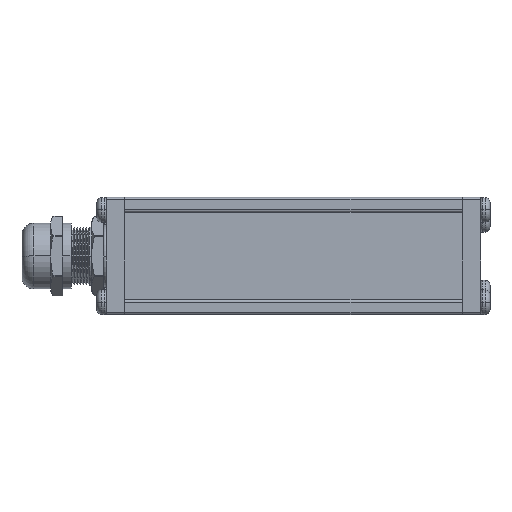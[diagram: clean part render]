
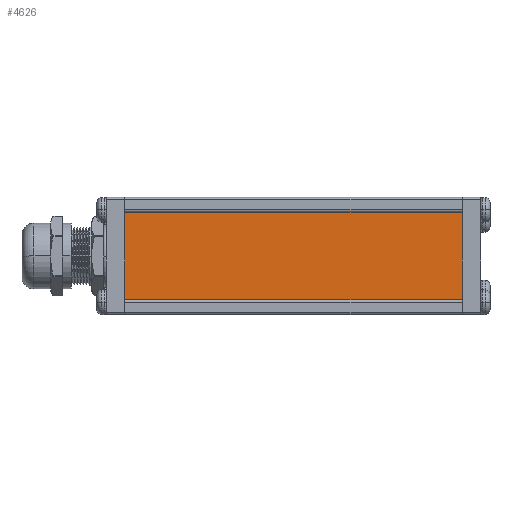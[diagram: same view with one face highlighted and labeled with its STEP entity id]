
A CAD part, top view. The second image highlights one B-rep face of the part: STEP entity #4626.
In plain terms, the highlighted planar face has unit normal (0, 0, 1) as drawn and (0, 1, 0) by its records, which use the part's own axes.
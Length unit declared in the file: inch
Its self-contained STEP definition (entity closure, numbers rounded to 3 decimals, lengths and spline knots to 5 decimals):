
#223 = EDGE_LOOP ( 'NONE', ( #7673, #12675, #14954, #30079 ) ) ;
#1923 = DIRECTION ( 'NONE',  ( 0., 0., 1. ) ) ;
#3280 = DIRECTION ( 'NONE',  ( 0., -1., 0. ) ) ;
#3724 = CARTESIAN_POINT ( 'NONE',  ( 1.135, 0.03, -0.344 ) ) ;
#3802 = DIRECTION ( 'NONE',  ( 0., 0., -1. ) ) ;
#4220 = VERTEX_POINT ( 'NONE', #4885 ) ;
#4243 = PLANE ( 'NONE',  #24178 ) ;
#4626 = ADVANCED_FACE ( 'NONE', ( #15838 ), #4243, .F. ) ;
#4885 = CARTESIAN_POINT ( 'NONE',  ( -1.135, 0.03, 0.344 ) ) ;
#4905 = VERTEX_POINT ( 'NONE', #19532 ) ;
#7188 = VECTOR ( 'NONE', #13498, 39.37008 ) ;
#7673 = ORIENTED_EDGE ( 'NONE', *, *, #22996, .T. ) ;
#7846 = CARTESIAN_POINT ( 'NONE',  ( 1.135, 0.03, 0.344 ) ) ;
#9204 = EDGE_CURVE ( 'NONE', #13735, #4220, #17800, .T. ) ;
#11468 = VERTEX_POINT ( 'NONE', #30034 ) ;
#12675 = ORIENTED_EDGE ( 'NONE', *, *, #9204, .F. ) ;
#13312 = VECTOR ( 'NONE', #30552, 39.37008 ) ;
#13371 = EDGE_CURVE ( 'NONE', #4905, #11468, #13535, .T. ) ;
#13498 = DIRECTION ( 'NONE',  ( -1., 0., 0. ) ) ;
#13535 = LINE ( 'NONE', #3724, #7188 ) ;
#13735 = VERTEX_POINT ( 'NONE', #7846 ) ;
#14240 = CARTESIAN_POINT ( 'NONE',  ( -1.135, 0.03, 0.344 ) ) ;
#14954 = ORIENTED_EDGE ( 'NONE', *, *, #15903, .F. ) ;
#15633 = VECTOR ( 'NONE', #1923, 39.37008 ) ;
#15838 = FACE_OUTER_BOUND ( 'NONE', #223, .T. ) ;
#15903 = EDGE_CURVE ( 'NONE', #4905, #13735, #23880, .T. ) ;
#17800 = LINE ( 'NONE', #23509, #13312 ) ;
#18183 = CARTESIAN_POINT ( 'NONE',  ( 1.135, 0.03, 0.344 ) ) ;
#19532 = CARTESIAN_POINT ( 'NONE',  ( 1.135, 0.03, -0.344 ) ) ;
#19864 = LINE ( 'NONE', #14240, #24688 ) ;
#20912 = CARTESIAN_POINT ( 'NONE',  ( 1.135, 0.03, 0.344 ) ) ;
#21980 = DIRECTION ( 'NONE',  ( 0., 0., 1. ) ) ;
#22996 = EDGE_CURVE ( 'NONE', #11468, #4220, #19864, .T. ) ;
#23509 = CARTESIAN_POINT ( 'NONE',  ( 1.135, 0.03, 0.344 ) ) ;
#23880 = LINE ( 'NONE', #18183, #15633 ) ;
#24178 = AXIS2_PLACEMENT_3D ( 'NONE', #20912, #3280, #3802 ) ;
#24688 = VECTOR ( 'NONE', #21980, 39.37008 ) ;
#30034 = CARTESIAN_POINT ( 'NONE',  ( -1.135, 0.03, -0.344 ) ) ;
#30079 = ORIENTED_EDGE ( 'NONE', *, *, #13371, .T. ) ;
#30552 = DIRECTION ( 'NONE',  ( -1., 0., 0. ) ) ;
